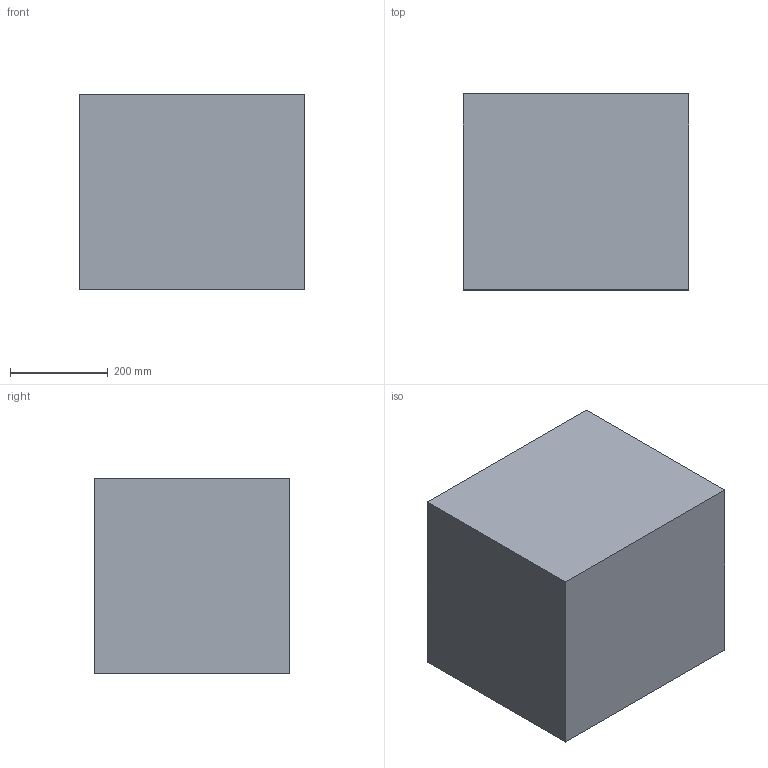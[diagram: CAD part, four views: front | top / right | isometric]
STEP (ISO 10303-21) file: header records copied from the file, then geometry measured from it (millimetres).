
FILE_DESCRIPTION(('Open CASCADE Model'),'2;1');
FILE_NAME('Open CASCADE Shape Model','2026-10-19T10:09:20',('Author'),( 'Open CASCADE'),'Open CASCADE STEP processor 8.0','Open CASCADE 8.0' ,'Unknown');
FILE_SCHEMA(('AUTOMOTIVE_DESIGN { 1 0 10303 214 1 1 1 1 }'));
Length unit declared in the file: millimetre
Products named in the file (1): TECLE_2t_REFERENCIA 67
Bounding box: 460 x 400 x 400 mm (x, y, z)
Volume: 73600000 mm3; surface area: 1056000 mm2
Topology: 1 solids, 1 shells, 6 faces, 12 edges, 8 vertices
Faces by surface type: plane 6
Entity records: 322 total; most frequent: CARTESIAN_POINT 51, DIRECTION 50, LINE 36, VECTOR 36, ORIENTED_EDGE 24, PCURVE 24, DEFINITIONAL_REPRESENTATION 24, EDGE_CURVE 12
